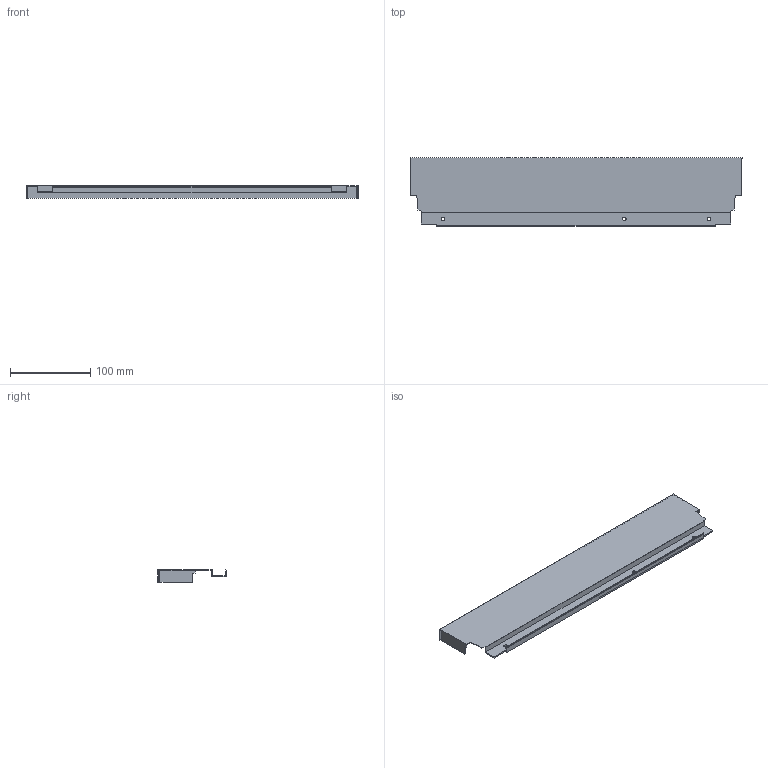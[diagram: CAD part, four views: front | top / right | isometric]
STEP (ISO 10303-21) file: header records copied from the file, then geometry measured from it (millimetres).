
FILE_DESCRIPTION (( 'STEP AP214' ), '1' );
FILE_NAME ('_DWD_XP Stahlrückwand_H86_KAB500_S19.step', '2010-07-08T12:10:32', ( 'grass' ), ( '' ), 'SwSTEP 2.0', 'SolidWorks 2010', '' );
FILE_SCHEMA (( 'AUTOMOTIVE_DESIGN' ));
Length unit declared in the file: millimetre
Products named in the file (1): _DWD_XP Stahlrückwand_H86_KAB500_S19
Bounding box: 413 x 85.79 x 16 mm (x, y, z)
Volume: 43747.5 mm3; surface area: 95670.2 mm2
Topology: 1 solids, 1 shells, 50 faces, 144 edges, 96 vertices
Faces by surface type: plane 44, cylinder 6
Entity records: 1666 total; most frequent: CARTESIAN_POINT 291, ORIENTED_EDGE 288, DIRECTION 258, EDGE_CURVE 144, LINE 132, VECTOR 132, VERTEX_POINT 96, AXIS2_PLACEMENT_3D 63
